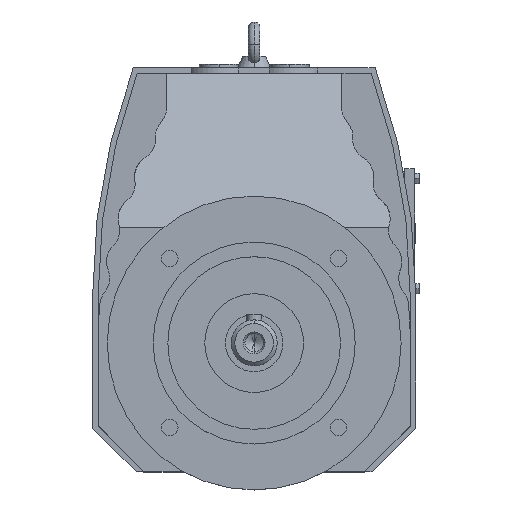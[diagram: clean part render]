
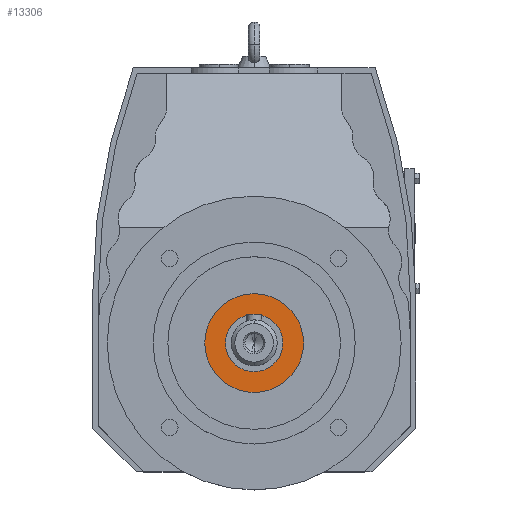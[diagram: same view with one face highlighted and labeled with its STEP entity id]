
A CAD part, top view. The second image highlights one B-rep face of the part: STEP entity #13306.
In plain terms, the highlighted planar face has unit normal (0, 0, 1).
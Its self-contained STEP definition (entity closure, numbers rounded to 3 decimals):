
#13155 = CYLINDRICAL_SURFACE('',#13156,26.909);
#13156 = AXIS2_PLACEMENT_3D('',#13157,#13158,#13159);
#13157 = CARTESIAN_POINT('',(0.,-60.,201.));
#13158 = DIRECTION('',(0.,0.,1.));
#13159 = DIRECTION('',(0.,-1.,0.));
#13185 = CYLINDRICAL_SURFACE('',#13186,26.909);
#13186 = AXIS2_PLACEMENT_3D('',#13187,#13188,#13189);
#13187 = CARTESIAN_POINT('',(0.,-60.,201.));
#13188 = DIRECTION('',(0.,0.,1.));
#13189 = DIRECTION('',(0.,-1.,0.));
#13203 = EDGE_CURVE('',#13204,#13206,#13208,.T.);
#13204 = VERTEX_POINT('',#13205);
#13205 = CARTESIAN_POINT('',(0.,-33.091,145.5)
  );
#13206 = VERTEX_POINT('',#13207);
#13207 = CARTESIAN_POINT('',(0.,-86.909,145.5));
#13208 = SURFACE_CURVE('',#13209,(#13214,#13220),.PCURVE_S1.);
#13209 = CIRCLE('',#13210,26.909);
#13210 = AXIS2_PLACEMENT_3D('',#13211,#13212,#13213);
#13211 = CARTESIAN_POINT('',(0.,-60.,145.5));
#13212 = DIRECTION('',(0.,0.,1.));
#13213 = DIRECTION('',(0.,-1.,0.));
#13214 = PCURVE('',#13185,#13215);
#13215 = DEFINITIONAL_REPRESENTATION('',(#13216),#13219);
#13216 = B_SPLINE_CURVE_WITH_KNOTS('',1,(#13217,#13218),.UNSPECIFIED.,
  .F.,.F.,(2,2),(3.142,6.283),.PIECEWISE_BEZIER_KNOTS.);
#13217 = CARTESIAN_POINT('',(3.142,-55.5));
#13218 = CARTESIAN_POINT('',(6.283,-55.5));
#13219 = ( GEOMETRIC_REPRESENTATION_CONTEXT(2) 
PARAMETRIC_REPRESENTATION_CONTEXT() REPRESENTATION_CONTEXT('2D SPACE',''
  ) );
#13220 = PCURVE('',#13221,#13226);
#13221 = PLANE('',#13222);
#13222 = AXIS2_PLACEMENT_3D('',#13223,#13224,#13225);
#13223 = CARTESIAN_POINT('',(0.,-44.375,145.5));
#13224 = DIRECTION('',(0.,0.,-1.));
#13225 = DIRECTION('',(0.,1.,0.));
#13226 = DEFINITIONAL_REPRESENTATION('',(#13227),#13235);
#13227 = ( BOUNDED_CURVE() B_SPLINE_CURVE(2,(#13228,#13229,#13230,#13231
    ,#13232,#13233,#13234),.UNSPECIFIED.,.T.,.F.) 
B_SPLINE_CURVE_WITH_KNOTS((1,2,2,2,2,1),(-2.094,0.,
    2.094,4.189,6.283,8.378),
.UNSPECIFIED.) CURVE() GEOMETRIC_REPRESENTATION_ITEM() 
RATIONAL_B_SPLINE_CURVE((1.,0.5,1.,0.5,1.,0.5,1.)) REPRESENTATION_ITEM(
  '') );
#13228 = CARTESIAN_POINT('',(-42.534,0.));
#13229 = CARTESIAN_POINT('',(-42.534,46.607));
#13230 = CARTESIAN_POINT('',(-2.171,23.304));
#13231 = CARTESIAN_POINT('',(38.192,0.));
#13232 = CARTESIAN_POINT('',(-2.171,-23.304));
#13233 = CARTESIAN_POINT('',(-42.534,-46.607));
#13234 = CARTESIAN_POINT('',(-42.534,0.));
#13235 = ( GEOMETRIC_REPRESENTATION_CONTEXT(2) 
PARAMETRIC_REPRESENTATION_CONTEXT() REPRESENTATION_CONTEXT('2D SPACE',''
  ) );
#13282 = EDGE_CURVE('',#13206,#13204,#13283,.T.);
#13283 = SURFACE_CURVE('',#13284,(#13289,#13295),.PCURVE_S1.);
#13284 = CIRCLE('',#13285,26.909);
#13285 = AXIS2_PLACEMENT_3D('',#13286,#13287,#13288);
#13286 = CARTESIAN_POINT('',(0.,-60.,145.5));
#13287 = DIRECTION('',(0.,0.,1.));
#13288 = DIRECTION('',(0.,-1.,0.));
#13289 = PCURVE('',#13155,#13290);
#13290 = DEFINITIONAL_REPRESENTATION('',(#13291),#13294);
#13291 = B_SPLINE_CURVE_WITH_KNOTS('',1,(#13292,#13293),.UNSPECIFIED.,
  .F.,.F.,(2,2),(0.,3.142),.PIECEWISE_BEZIER_KNOTS.);
#13292 = CARTESIAN_POINT('',(0.,-55.5));
#13293 = CARTESIAN_POINT('',(3.142,-55.5));
#13294 = ( GEOMETRIC_REPRESENTATION_CONTEXT(2) 
PARAMETRIC_REPRESENTATION_CONTEXT() REPRESENTATION_CONTEXT('2D SPACE',''
  ) );
#13295 = PCURVE('',#13221,#13296);
#13296 = DEFINITIONAL_REPRESENTATION('',(#13297),#13305);
#13297 = ( BOUNDED_CURVE() B_SPLINE_CURVE(2,(#13298,#13299,#13300,#13301
    ,#13302,#13303,#13304),.UNSPECIFIED.,.T.,.F.) 
B_SPLINE_CURVE_WITH_KNOTS((1,2,2,2,2,1),(-2.094,0.,
    2.094,4.189,6.283,8.378),
.UNSPECIFIED.) CURVE() GEOMETRIC_REPRESENTATION_ITEM() 
RATIONAL_B_SPLINE_CURVE((1.,0.5,1.,0.5,1.,0.5,1.)) REPRESENTATION_ITEM(
  '') );
#13298 = CARTESIAN_POINT('',(-42.534,0.));
#13299 = CARTESIAN_POINT('',(-42.534,46.607));
#13300 = CARTESIAN_POINT('',(-2.171,23.304));
#13301 = CARTESIAN_POINT('',(38.192,0.));
#13302 = CARTESIAN_POINT('',(-2.171,-23.304));
#13303 = CARTESIAN_POINT('',(-42.534,-46.607));
#13304 = CARTESIAN_POINT('',(-42.534,0.));
#13305 = ( GEOMETRIC_REPRESENTATION_CONTEXT(2) 
PARAMETRIC_REPRESENTATION_CONTEXT() REPRESENTATION_CONTEXT('2D SPACE',''
  ) );
#13306 = ADVANCED_FACE('',(#13307,#13373),#13221,.F.);
#13307 = FACE_BOUND('',#13308,.T.);
#13308 = EDGE_LOOP('',(#13309,#13343));
#13309 = ORIENTED_EDGE('',*,*,#13310,.F.);
#13310 = EDGE_CURVE('',#13311,#13313,#13315,.T.);
#13311 = VERTEX_POINT('',#13312);
#13312 = CARTESIAN_POINT('',(0.,-75.625,145.5));
#13313 = VERTEX_POINT('',#13314);
#13314 = CARTESIAN_POINT('',(0.,-44.375,145.5));
#13315 = SURFACE_CURVE('',#13316,(#13321,#13332),.PCURVE_S1.);
#13316 = CIRCLE('',#13317,15.625);
#13317 = AXIS2_PLACEMENT_3D('',#13318,#13319,#13320);
#13318 = CARTESIAN_POINT('',(0.,-60.,145.5));
#13319 = DIRECTION('',(0.,0.,1.));
#13320 = DIRECTION('',(0.,-1.,0.));
#13321 = PCURVE('',#13221,#13322);
#13322 = DEFINITIONAL_REPRESENTATION('',(#13323),#13331);
#13323 = ( BOUNDED_CURVE() B_SPLINE_CURVE(2,(#13324,#13325,#13326,#13327
    ,#13328,#13329,#13330),.UNSPECIFIED.,.T.,.F.) 
B_SPLINE_CURVE_WITH_KNOTS((1,2,2,2,2,1),(-2.094,0.,
    2.094,4.189,6.283,8.378),
.UNSPECIFIED.) CURVE() GEOMETRIC_REPRESENTATION_ITEM() 
RATIONAL_B_SPLINE_CURVE((1.,0.5,1.,0.5,1.,0.5,1.)) REPRESENTATION_ITEM(
  '') );
#13324 = CARTESIAN_POINT('',(-31.25,0.));
#13325 = CARTESIAN_POINT('',(-31.25,27.063));
#13326 = CARTESIAN_POINT('',(-7.813,13.532));
#13327 = CARTESIAN_POINT('',(15.625,0.));
#13328 = CARTESIAN_POINT('',(-7.813,-13.532));
#13329 = CARTESIAN_POINT('',(-31.25,-27.063));
#13330 = CARTESIAN_POINT('',(-31.25,0.));
#13331 = ( GEOMETRIC_REPRESENTATION_CONTEXT(2) 
PARAMETRIC_REPRESENTATION_CONTEXT() REPRESENTATION_CONTEXT('2D SPACE',''
  ) );
#13332 = PCURVE('',#13333,#13338);
#13333 = CYLINDRICAL_SURFACE('',#13334,15.625);
#13334 = AXIS2_PLACEMENT_3D('',#13335,#13336,#13337);
#13335 = CARTESIAN_POINT('',(0.,-60.,201.));
#13336 = DIRECTION('',(0.,0.,1.));
#13337 = DIRECTION('',(0.,-1.,0.));
#13338 = DEFINITIONAL_REPRESENTATION('',(#13339),#13342);
#13339 = B_SPLINE_CURVE_WITH_KNOTS('',1,(#13340,#13341),.UNSPECIFIED.,
  .F.,.F.,(2,2),(0.,3.142),.PIECEWISE_BEZIER_KNOTS.);
#13340 = CARTESIAN_POINT('',(0.,-55.5));
#13341 = CARTESIAN_POINT('',(3.142,-55.5));
#13342 = ( GEOMETRIC_REPRESENTATION_CONTEXT(2) 
PARAMETRIC_REPRESENTATION_CONTEXT() REPRESENTATION_CONTEXT('2D SPACE',''
  ) );
#13343 = ORIENTED_EDGE('',*,*,#13344,.F.);
#13344 = EDGE_CURVE('',#13313,#13311,#13345,.T.);
#13345 = SURFACE_CURVE('',#13346,(#13351,#13362),.PCURVE_S1.);
#13346 = CIRCLE('',#13347,15.625);
#13347 = AXIS2_PLACEMENT_3D('',#13348,#13349,#13350);
#13348 = CARTESIAN_POINT('',(0.,-60.,145.5));
#13349 = DIRECTION('',(0.,0.,1.));
#13350 = DIRECTION('',(0.,-1.,0.));
#13351 = PCURVE('',#13221,#13352);
#13352 = DEFINITIONAL_REPRESENTATION('',(#13353),#13361);
#13353 = ( BOUNDED_CURVE() B_SPLINE_CURVE(2,(#13354,#13355,#13356,#13357
    ,#13358,#13359,#13360),.UNSPECIFIED.,.T.,.F.) 
B_SPLINE_CURVE_WITH_KNOTS((1,2,2,2,2,1),(-2.094,0.,
    2.094,4.189,6.283,8.378),
.UNSPECIFIED.) CURVE() GEOMETRIC_REPRESENTATION_ITEM() 
RATIONAL_B_SPLINE_CURVE((1.,0.5,1.,0.5,1.,0.5,1.)) REPRESENTATION_ITEM(
  '') );
#13354 = CARTESIAN_POINT('',(-31.25,0.));
#13355 = CARTESIAN_POINT('',(-31.25,27.063));
#13356 = CARTESIAN_POINT('',(-7.813,13.532));
#13357 = CARTESIAN_POINT('',(15.625,0.));
#13358 = CARTESIAN_POINT('',(-7.813,-13.532));
#13359 = CARTESIAN_POINT('',(-31.25,-27.063));
#13360 = CARTESIAN_POINT('',(-31.25,0.));
#13361 = ( GEOMETRIC_REPRESENTATION_CONTEXT(2) 
PARAMETRIC_REPRESENTATION_CONTEXT() REPRESENTATION_CONTEXT('2D SPACE',''
  ) );
#13362 = PCURVE('',#13363,#13368);
#13363 = CYLINDRICAL_SURFACE('',#13364,15.625);
#13364 = AXIS2_PLACEMENT_3D('',#13365,#13366,#13367);
#13365 = CARTESIAN_POINT('',(0.,-60.,201.));
#13366 = DIRECTION('',(0.,0.,1.));
#13367 = DIRECTION('',(0.,-1.,0.));
#13368 = DEFINITIONAL_REPRESENTATION('',(#13369),#13372);
#13369 = B_SPLINE_CURVE_WITH_KNOTS('',1,(#13370,#13371),.UNSPECIFIED.,
  .F.,.F.,(2,2),(3.142,6.283),.PIECEWISE_BEZIER_KNOTS.);
#13370 = CARTESIAN_POINT('',(3.142,-55.5));
#13371 = CARTESIAN_POINT('',(6.283,-55.5));
#13372 = ( GEOMETRIC_REPRESENTATION_CONTEXT(2) 
PARAMETRIC_REPRESENTATION_CONTEXT() REPRESENTATION_CONTEXT('2D SPACE',''
  ) );
#13373 = FACE_BOUND('',#13374,.T.);
#13374 = EDGE_LOOP('',(#13375,#13376));
#13375 = ORIENTED_EDGE('',*,*,#13282,.T.);
#13376 = ORIENTED_EDGE('',*,*,#13203,.T.);
